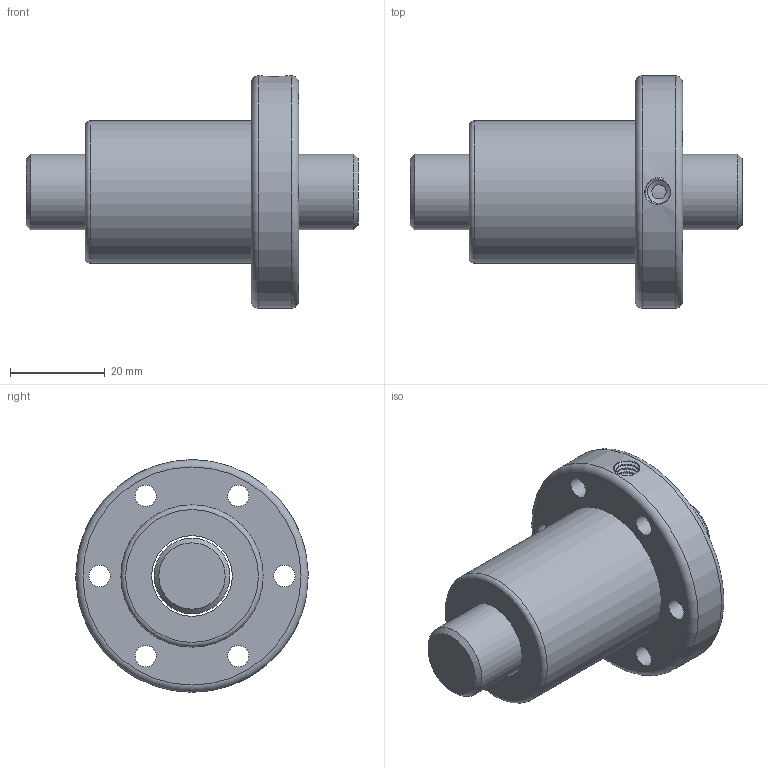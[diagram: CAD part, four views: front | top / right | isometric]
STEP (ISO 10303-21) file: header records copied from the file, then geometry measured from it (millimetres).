
FILE_DESCRIPTION(/* description */ ('Unknown','CAx-IF Rec.Pracs.---Representation and Presentation of Product Manufacturing Information (PMI)---4.0---2014-10-13','CAx-IF Rec.Pracs.---3D Tessellated Geometry---0.4---2014-09-14','2;1'),/* implementation_level */ '2;1');
FILE_NAME(/* name */ 'SFI01604',/* time_stamp */ '2020-12-06T19:01:40+08:00',/* author */ ('Unknown'),/* organization */ ('Unknown'),/* preprocessor_version */ 'ST-DEVELOPER v16.7',/* originating_system */ 'Solid Edge',/* authorisation */ 'Unknown');
FILE_SCHEMA (('AP242_MANAGED_MODEL_BASED_3D_ENGINEERING_MIM_LF { 1 0 10303 442 1 1 4 }'));
Length unit declared in the file: millimetre
Products named in the file (1): SFI01604
Bounding box: 70 x 49 x 49 mm (x, y, z)
Volume: 45128.7 mm3; surface area: 15394.7 mm2
Topology: 2 solids, 2 shells, 39 faces, 101 edges, 67 vertices
Faces by surface type: cylinder 19, plane 12, cone 3, torus 3, bspline 2
Full cylindrical faces by diameter (mm): 3 x1, 4.5 x6, 8 x6, 16 x1, 17 x1, 30 x1, 49 x1
Entity records: 3297 total; most frequent: CARTESIAN_POINT 2426, DIRECTION 174, ORIENTED_EDGE 126, AXIS2_PLACEMENT_3D 88, EDGE_LOOP 79, FACE_BOUND 79, EDGE_CURVE 63, VERTEX_POINT 52
